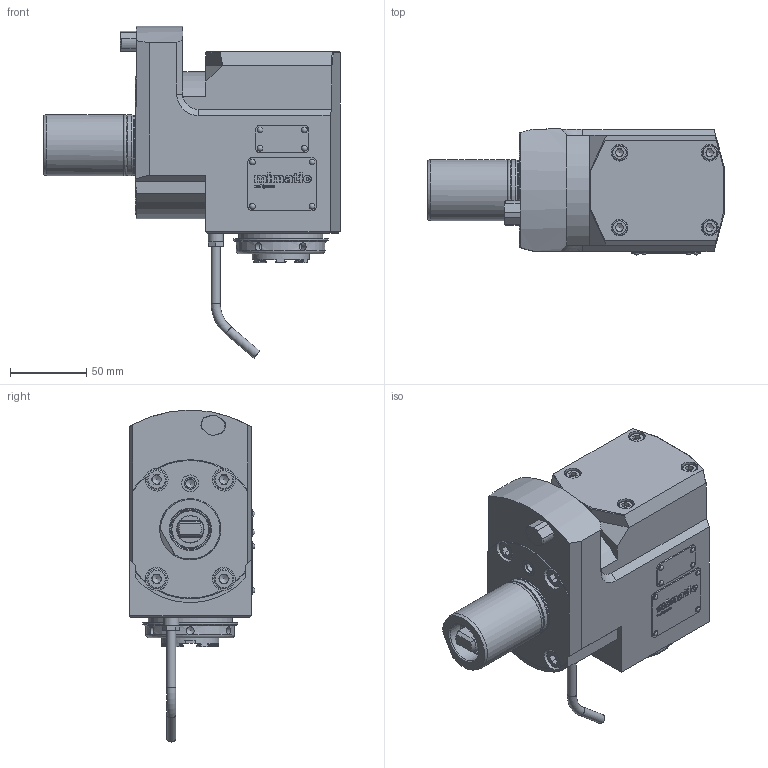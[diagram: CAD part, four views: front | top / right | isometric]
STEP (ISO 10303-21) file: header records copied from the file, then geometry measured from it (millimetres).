
FILE_DESCRIPTION(/* description */ (''),/* implementation_level */ '2;1');
FILE_NAME(/* name */ '124887',/* time_stamp */ '2020-02-25T13:35:43+01:00',/* author */ (''),/* organization */ (''),/* preprocessor_version */ 'ST-DEVELOPER v16.5',/* originating_system */ 'HiCAD 2017 2201.0 Build 268',/* authorisation */ '');
FILE_SCHEMA (('AUTOMOTIVE_DESIGN { 1 0 10303 214 1 1 1 1 }'));
Products named in the file (5): Root; Teil; ABCDEFGHIJKLMNOPQRSTUVWXYZ[\]^_`ABCDEFGHIJKLMNOP뱐趰ǝ; DIN 76-M8
Assembly tree (4 placements, depth 3):
  Root
    Teil
      ABCDEFGHIJKLMNOPQRSTUVWXYZ[\]^_`ABCDEFGHIJKLMNOP뱐趰ǝ
      ABCDEFGHIJKLMNOPQRSTUVWXYZ[\]^_`ABCDEFGHIJKLMNOP뱐趰ǝ
      DIN 76-M8
Bounding box: 194 x 82.3 x 217.17 mm (x, y, z)
Volume: 1225645.9 mm3; surface area: 111599.3 mm2
Topology: 5 solids, 18 shells, 861 faces, 2176 edges, 1421 vertices
Faces by surface type: plane 545, cylinder 201, cone 39, bspline 38, torus 30, sphere 8
Full cylindrical faces by diameter (mm): 2 x8, 2.2 x8, 4 x2, 5.1 x6, 6 x4, 6.8 x2, 7.5 x1, 7.65 x1, 8 x2, 8.773 x2, 9 x4, 10 x5, 11 x4, 11.01 x1, 11.1 x1, 13 x4, 15 x4, 18 x1, 23.5 x1, 24 x2, 26.5 x1, 27 x2, 29.4 x1, 36.5 x2, 37.5 x1, 38 x1, 38.16 x2, 38.4 x1, 39.4 x1, 40 x3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
Entity records: 57180 total; most frequent: CARTESIAN_POINT 14446, PRESENTATION_STYLE_ASSIGNMENT 4467, OVER_RIDING_STYLED_ITEM 4463, DRAUGHTING_PRE_DEFINED_CURVE_FONT 3952, CURVE_STYLE 3952, ORIENTED_EDGE 3952, COLOUR_RGB 3938, DIRECTION 3927
